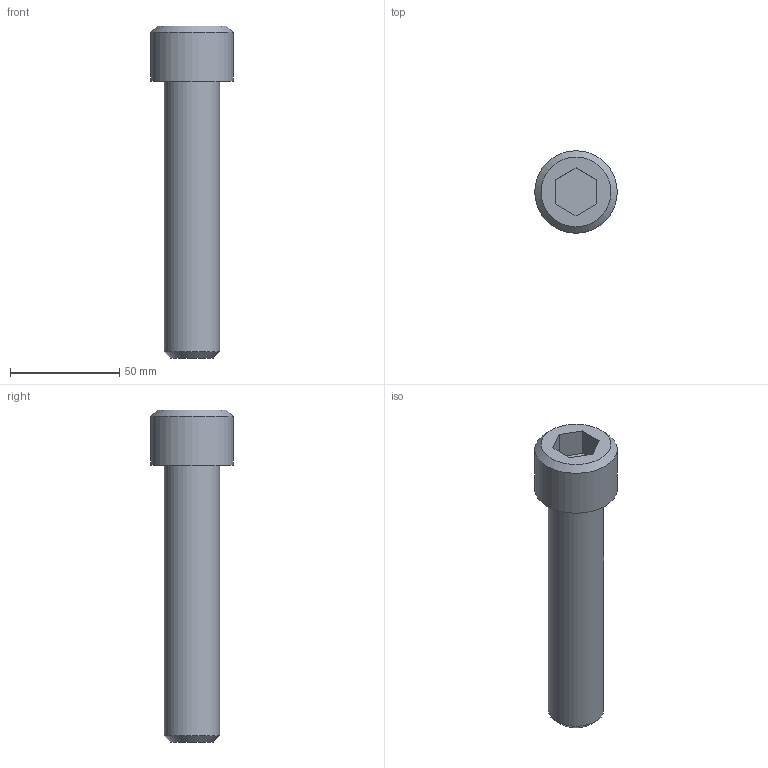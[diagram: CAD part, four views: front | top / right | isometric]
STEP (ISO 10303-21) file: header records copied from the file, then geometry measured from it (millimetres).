
FILE_DESCRIPTION((''),'2;1');
FILE_NAME('C:\Users\Stan\Desktop\import\SHCS 1-8 UNCx5.ipt.step','2011-08-18T17:44:21',(''),(''),'Autodesk Inventor 2012','Autodesk Inventor 2012','');
FILE_SCHEMA(('AUTOMOTIVE_DESIGN { 1 0 10303 214 1 1 1 1 }'));
Length unit declared in the file: inch
Products named in the file (1): SHCS 1-8 UNCx5
Bounding box: 37.8 x 37.8 x 152.25 mm (x, y, z)
Volume: 87944.8 mm3; surface area: 15847 mm2
Topology: 1 solids, 1 shells, 14 faces, 28 edges, 18 vertices
Faces by surface type: plane 10, cone 2, cylinder 2
Full cylindrical faces by diameter (mm): 25.4 x1, 37.795 x1
Entity records: 391 total; most frequent: DIRECTION 60, CARTESIAN_POINT 57, ORIENTED_EDGE 48, EDGE_CURVE 24, AXIS2_PLACEMENT_3D 21, EDGE_LOOP 20, VERTEX_POINT 18, VECTOR 18
